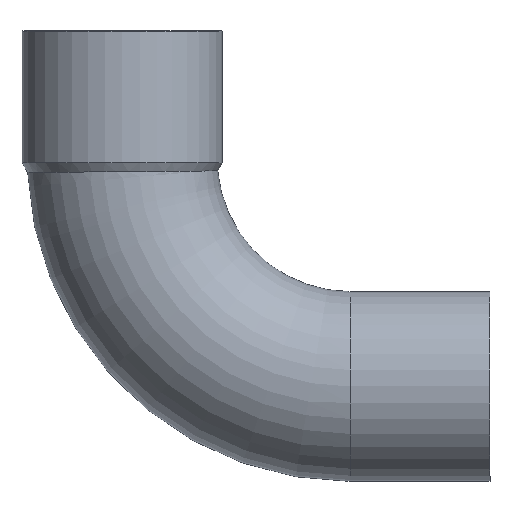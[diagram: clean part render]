
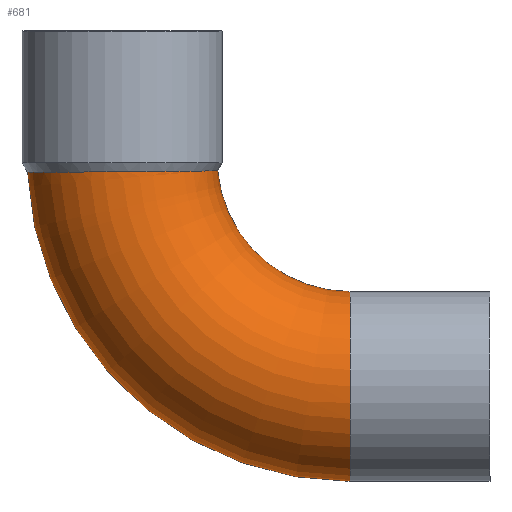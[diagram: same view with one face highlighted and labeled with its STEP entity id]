
A CAD part, front view. The second image highlights one B-rep face of the part: STEP entity #681.
In plain terms, the highlighted toroidal (fillet/blend) face has major radius 38.4 mm and minor radius 16 mm.
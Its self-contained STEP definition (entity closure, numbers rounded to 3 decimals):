
#49=CARTESIAN_POINT('',(-32.317,0.,-2.283));
#50=VERTEX_POINT('',#49);
#51=CARTESIAN_POINT('',(22.035,0.,-54.4));
#52=VERTEX_POINT('',#51);
#53=CARTESIAN_POINT('',(22.035,0.,0.0));
#54=DIRECTION('',(0.0,-1.0,0.0));
#55=DIRECTION('',(0.0,0.0,-1.0));
#56=AXIS2_PLACEMENT_3D('',#53,#54,#55);
#57=CIRCLE('',#56,54.4);
#58=EDGE_CURVE('',#50,#52,#57,.T.);
#60=CARTESIAN_POINT('',(-0.272,0.,-2.039));
#61=VERTEX_POINT('',#60);
#85=CARTESIAN_POINT('',(22.035,0.,-22.4));
#86=VERTEX_POINT('',#85);
#87=CARTESIAN_POINT('',(22.035,0.,0.0));
#88=DIRECTION('',(0.0,1.0,0.0));
#89=DIRECTION('',(0.0,0.0,-1.0));
#90=AXIS2_PLACEMENT_3D('',#87,#88,#89);
#91=CIRCLE('',#90,22.4);
#92=EDGE_CURVE('',#86,#61,#91,.T.);
#212=CARTESIAN_POINT('',(-0.272,0.,-2.039));
#213=CARTESIAN_POINT('',(-0.272,-0.137,-2.039));
#214=CARTESIAN_POINT('',(-0.274,-0.275,-2.039));
#215=CARTESIAN_POINT('',(-0.331,-2.493,-2.04));
#216=CARTESIAN_POINT('',(-0.791,-4.542,-2.047));
#217=CARTESIAN_POINT('',(-2.474,-8.356,-2.07));
#218=CARTESIAN_POINT('',(-3.683,-10.081,-2.085));
#219=CARTESIAN_POINT('',(-6.694,-12.974,-2.119));
#220=CARTESIAN_POINT('',(-8.47,-14.113,-2.137));
#221=CARTESIAN_POINT('',(-12.356,-15.647,-2.171));
#222=CARTESIAN_POINT('',(-14.43,-16.027,-2.187));
#223=CARTESIAN_POINT('',(-18.605,-15.97,-2.215));
#224=CARTESIAN_POINT('',(-20.666,-15.535,-2.228));
#225=CARTESIAN_POINT('',(-24.503,-13.9,-2.248));
#226=CARTESIAN_POINT('',(-26.243,-12.717,-2.257));
#227=CARTESIAN_POINT('',(-29.17,-9.751,-2.27));
#228=CARTESIAN_POINT('',(-30.329,-7.997,-2.275));
#229=CARTESIAN_POINT('',(-31.91,-4.144,-2.281));
#230=CARTESIAN_POINT('',(-32.317,-2.082,-2.283));
#231=CARTESIAN_POINT('',(-32.317,0.,-2.283));
#232=B_SPLINE_CURVE_WITH_KNOTS('',3,(#212,#213,#214,#215,#216,#217,#218,#219,#220,#221,#222,#223,#224,#225,#226,#227,#228,#229,#230,#231),.UNSPECIFIED.,.F.,.U.,(4,2,2,2,2,2,2,2,2,4),(-5.046,-5.004,-4.38,-3.754,-3.127,-2.501,-1.875,-1.249,-0.625,0.0),.UNSPECIFIED.);
#233=EDGE_CURVE('',#61,#50,#232,.T.);
#537=CARTESIAN_POINT('',(22.035,0.,-38.4));
#538=DIRECTION('',(-1.0,0.0,0.0));
#539=DIRECTION('',(0.0,0.0,-1.0));
#540=AXIS2_PLACEMENT_3D('',#537,#538,#539);
#541=CIRCLE('',#540,16.0);
#542=EDGE_CURVE('',#52,#86,#541,.T.);
#670=CARTESIAN_POINT('',(22.035,0.,0.0));
#671=DIRECTION('',(0.0,-1.0,0.0));
#672=DIRECTION('',(0.0,0.0,-1.0));
#673=AXIS2_PLACEMENT_3D('',#670,#671,#672);
#674=TOROIDAL_SURFACE('',#673,38.4,16.0);
#675=ORIENTED_EDGE('',*,*,#58,.T.);
#676=ORIENTED_EDGE('',*,*,#542,.T.);
#677=ORIENTED_EDGE('',*,*,#92,.T.);
#678=ORIENTED_EDGE('',*,*,#233,.T.);
#679=EDGE_LOOP('',(#675,#676,#677,#678));
#680=FACE_OUTER_BOUND('',#679,.T.);
#681=ADVANCED_FACE('',(#680),#674,.T.);
